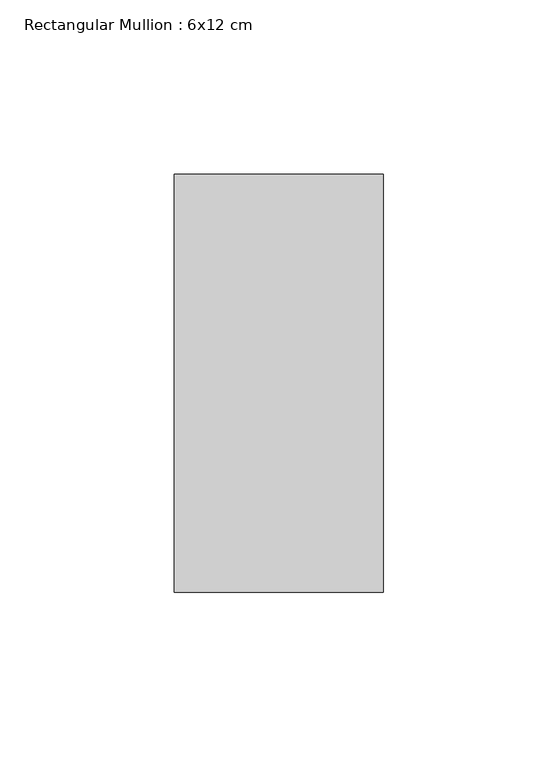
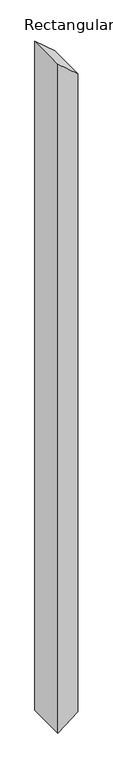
"""IFC4 building model written with IfcOpenShell, lengths in millimetres: member geometry, Rectangular Mullion : 6x12 cm."""

from ifc_helpers import new_model, si_unit, frame, origin, place, context, project, spatial, polyline, outline, extrude, source, transform, mapped, element, save


def rectangular_mullion_6x12_cm_eda7a8ce(model_context):
    return source(origin(), model_context, "Body", "SweptSolid", [
        extrude(outline(polyline([(-104.1141863, 30.0), (-53.2294579, -30.0), (-2184.941316, -30.0), (-2137.8258267, 30.0), (-104.1141863, 30.0)])), frame((0.0, 85.0, 0.0), z_axis=(0.0, 1.0, 0.0), x_axis=(0.0, 0.0, 1.0)), (0.0, 0.0, 1.0), 120.0),
    ])


if __name__ == "__main__":
    model = new_model("IFC4")
    model_context = context("Model", 3, world=origin())
    ifc_project = project(units=[si_unit("LENGTHUNIT", "METRE", prefix="MILLI")], contexts=[model_context])
    site = spatial("IfcSite", under=ifc_project)
    building = spatial("IfcBuilding", under=site)
    placement = place(None, origin())
    rectangular_mullion_6x12_cm_shape = rectangular_mullion_6x12_cm_eda7a8ce(model_context)
    element("IfcMember", 1, ObjectType="Rectangular Mullion : 6x12 cm", at=placement, inside=building, context=model_context, shape_type="MappedRepresentation", body=[
        mapped(rectangular_mullion_6x12_cm_shape, transform((0.0, 0.0, 0.0), x_axis=(1.0, 0.0, 0.0), y_axis=(0.0, 1.0, 0.0), z_axis=(0.0, 0.0, 1.0))),
    ])
    save(model, "model.ifc")
